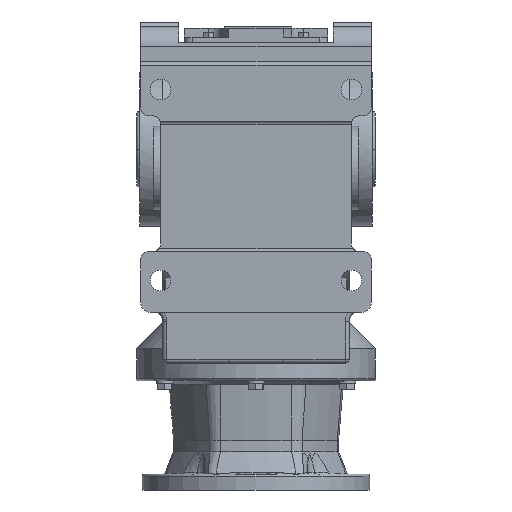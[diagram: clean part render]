
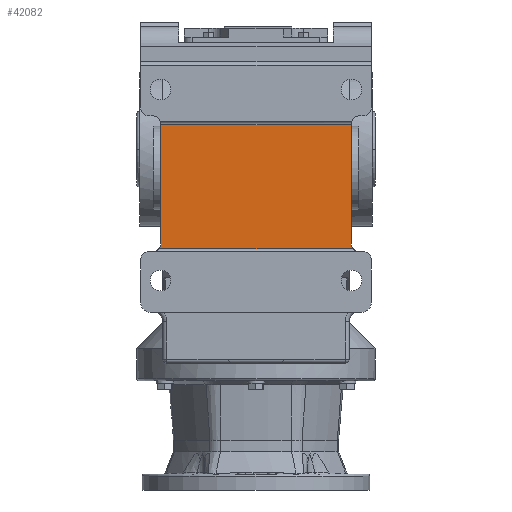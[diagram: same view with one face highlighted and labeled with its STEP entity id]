
A CAD part, front view. The second image highlights one B-rep face of the part: STEP entity #42082.
In plain terms, the highlighted planar face has unit normal (0, -1, 0).
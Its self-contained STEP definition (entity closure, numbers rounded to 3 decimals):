
#91 = VERTEX_POINT ( 'NONE', #37332 ) ;
#3431 = CARTESIAN_POINT ( 'NONE',  ( -145., -260., 31. ) ) ;
#3435 = PLANE ( 'NONE',  #6083 ) ;
#3437 = DIRECTION ( 'NONE',  ( 0., -1., 0. ) ) ;
#3438 = DIRECTION ( 'NONE',  ( 0., 0., -1. ) ) ;
#4286 = FACE_OUTER_BOUND ( 'NONE', #31575, .T. ) ;
#6083 = AXIS2_PLACEMENT_3D ( 'NONE', #3431, #3437, #3438 ) ;
#8006 = AXIS2_PLACEMENT_3D ( 'NONE', #26973, #26975, #26977 ) ;
#8007 = AXIS2_PLACEMENT_3D ( 'NONE', #26965, #26967, #26968 ) ;
#11344 = CARTESIAN_POINT ( 'NONE',  ( -120., -260., 31. ) ) ;
#15540 = CARTESIAN_POINT ( 'NONE',  ( 120., -260., -119. ) ) ;
#15578 = CARTESIAN_POINT ( 'NONE',  ( 122., -260., -125. ) ) ;
#15616 = CARTESIAN_POINT ( 'NONE',  ( -122., -260., -125. ) ) ;
#15741 = CARTESIAN_POINT ( 'NONE',  ( -120., -260., -119. ) ) ;
#24471 = LINE ( 'NONE', #26853, #24474 ) ;
#24474 = VECTOR ( 'NONE', #26857, 1000. ) ;
#24478 = LINE ( 'NONE', #26948, #24493 ) ;
#24489 = LINE ( 'NONE', #26937, #24491 ) ;
#24490 = CIRCLE ( 'NONE', #8007, 10. ) ;
#24491 = VECTOR ( 'NONE', #26939, 1000. ) ;
#24493 = VECTOR ( 'NONE', #26957, 1000. ) ;
#24494 = CIRCLE ( 'NONE', #8006, 10. ) ;
#24495 = LINE ( 'NONE', #26961, #24497 ) ;
#24497 = VECTOR ( 'NONE', #26963, 1000. ) ;
#26853 = CARTESIAN_POINT ( 'NONE',  ( -145., -260., -125. ) ) ;
#26857 = DIRECTION ( 'NONE',  ( 1., 0., 0. ) ) ;
#26937 = CARTESIAN_POINT ( 'NONE',  ( -145., -260., 31. ) ) ;
#26939 = DIRECTION ( 'NONE',  ( 1., 0., 0. ) ) ;
#26948 = CARTESIAN_POINT ( 'NONE',  ( -120., -260., -125. ) ) ;
#26957 = DIRECTION ( 'NONE',  ( 0., 0., 1. ) ) ;
#26961 = CARTESIAN_POINT ( 'NONE',  ( 120., -260., 31. ) ) ;
#26963 = DIRECTION ( 'NONE',  ( 0., 0., -1. ) ) ;
#26965 = CARTESIAN_POINT ( 'NONE',  ( -130., -260., -119. ) ) ;
#26967 = DIRECTION ( 'NONE',  ( 0., 1., 0. ) ) ;
#26968 = DIRECTION ( 'NONE',  ( 0., 0., -1. ) ) ;
#26973 = CARTESIAN_POINT ( 'NONE',  ( 130., -260., -119. ) ) ;
#26975 = DIRECTION ( 'NONE',  ( 0., 1., 0. ) ) ;
#26977 = DIRECTION ( 'NONE',  ( 0., 0., -1. ) ) ;
#28903 = EDGE_CURVE ( 'NONE', #35342, #35314, #24471, .T. ) ;
#28915 = EDGE_CURVE ( 'NONE', #43396, #91, #24489, .T. ) ;
#28916 = EDGE_CURVE ( 'NONE', #35431, #43396, #24478, .T. ) ;
#28917 = EDGE_CURVE ( 'NONE', #35431, #35342, #24490, .T. ) ;
#28918 = EDGE_CURVE ( 'NONE', #35314, #35288, #24494, .T. ) ;
#28919 = EDGE_CURVE ( 'NONE', #91, #35288, #24495, .T. ) ;
#30819 = ORIENTED_EDGE ( 'NONE', *, *, #28915, .F. ) ;
#30820 = ORIENTED_EDGE ( 'NONE', *, *, #28916, .F. ) ;
#30821 = ORIENTED_EDGE ( 'NONE', *, *, #28917, .T. ) ;
#30822 = ORIENTED_EDGE ( 'NONE', *, *, #28903, .T. ) ;
#30823 = ORIENTED_EDGE ( 'NONE', *, *, #28918, .T. ) ;
#30824 = ORIENTED_EDGE ( 'NONE', *, *, #28919, .F. ) ;
#31575 = EDGE_LOOP ( 'NONE', ( #30819, #30820, #30821, #30822, #30823, #30824 ) ) ;
#35288 = VERTEX_POINT ( 'NONE', #15540 ) ;
#35314 = VERTEX_POINT ( 'NONE', #15578 ) ;
#35342 = VERTEX_POINT ( 'NONE', #15616 ) ;
#35431 = VERTEX_POINT ( 'NONE', #15741 ) ;
#37332 = CARTESIAN_POINT ( 'NONE',  ( 120., -260., 31. ) ) ;
#42082 = ADVANCED_FACE ( 'NONE', ( #4286 ), #3435, .T. ) ;
#43396 = VERTEX_POINT ( 'NONE', #11344 ) ;
